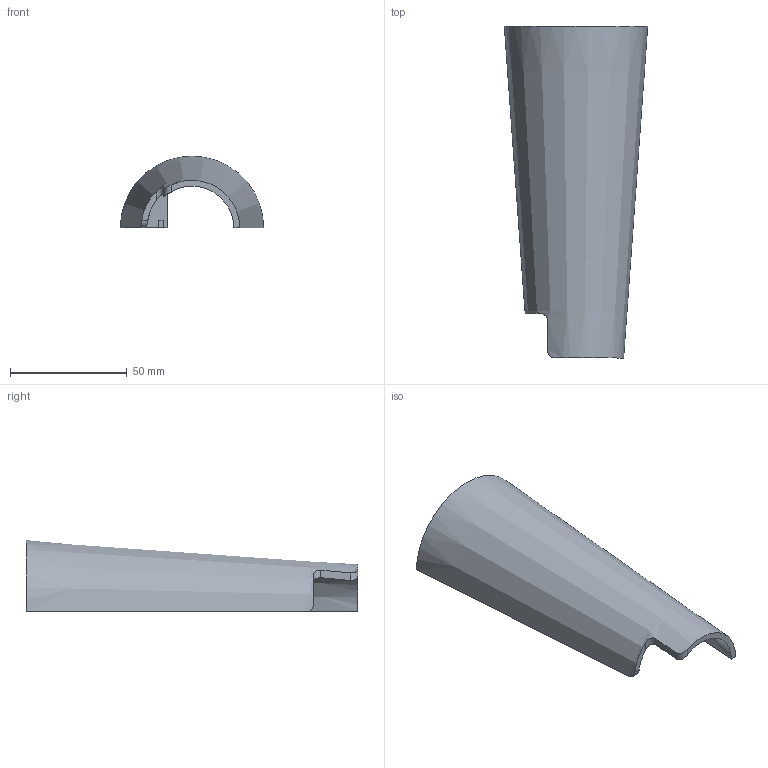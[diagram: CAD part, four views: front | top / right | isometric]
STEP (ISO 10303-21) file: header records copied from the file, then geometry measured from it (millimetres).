
FILE_DESCRIPTION((''),'2;1');
FILE_NAME('C:\Documents and Settings\Powderly\Desktop\UpperArmMatingSubstrate.stp','2005-08-09T02:17:31',('Powderly'),(''),'Autodesk Inventor 10','Autodesk Inventor 10','');
FILE_SCHEMA(('AUTOMOTIVE_DESIGN { 1 0 10303 214 1 1 1 1 }'));
Length unit declared in the file: inch
Products named in the file (1): UpperArmMatingSubstrate
Bounding box: 61.47 x 142.24 x 30.73 mm (x, y, z)
Volume: 38746 mm3; surface area: 23424 mm2
Topology: 1 solids, 1 shells, 32 faces, 86 edges, 56 vertices
Faces by surface type: plane 24, cylinder 6, cone 2
Entity records: 1076 total; most frequent: CARTESIAN_POINT 257, ORIENTED_EDGE 172, DIRECTION 157, EDGE_CURVE 86, VECTOR 61, LINE 61, VERTEX_POINT 56, AXIS2_PLACEMENT_3D 48
